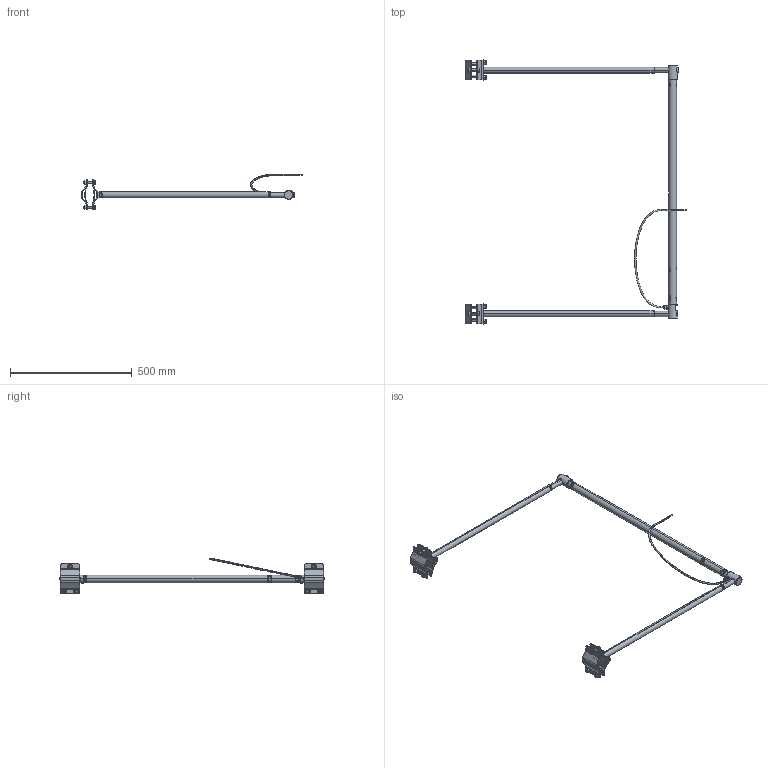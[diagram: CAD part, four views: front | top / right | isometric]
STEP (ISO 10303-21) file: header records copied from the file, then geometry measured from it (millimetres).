
FILE_DESCRIPTION (( 'STEP AP214' ), '1' );
FILE_NAME ('FCBRA.STEP', '2023-08-17T12:14:03', ( '' ), ( '' ), 'SwSTEP 2.0', 'SolidWorks 2023', '' );
FILE_SCHEMA (( 'AUTOMOTIVE_DESIGN' ));
Length unit declared in the file: millimetre
Products named in the file (35): CYBRA; BLID; BN 611 M10x110; SLEEVE; CABLE; BSHORTP; BN 33010 M10; BLIDP; Assemblage1^BLIDP; BN 610 M10x12; FCHEAD; MICHEAD; ORING 21.89x2.62; FCBASE; BN 610 M10x40; BRASH; BN 33021 M4x8; FCKIT; BN 10342 M10x25x1.5; MICHEADP; CYARM; FCSEN; FCTUBE; BRACF; BN 1593 M3x5; BRACB; GLAND; LABFC; FCBRA; CABEND; GROH 13x17x4; FUSEE; CABLE_round^CABLE; VBRA; BSHORT
Assembly tree (56 placements, depth 7):
  FCBRA
    CYBRA  x2
      BN 610 M10x12
      CYARM
      VBRA
        BRACB
        BRACF
        BN 610 M10x40  x3
        BN 33010 M10  x3
        BRASH  x2
      BN 10342 M10x25x1.5
    FCKIT
      FCSEN
        FCBASE
          BSHORTP
            BSHORT
            ORING 21.89x2.62  x2
            BN 1593 M3x5  x4
            BN 33021 M4x8
          GROH 13x17x4
          FUSEE
          LABFC
          CABLE
            CABLE_round^CABLE
            CABEND
            GLAND
          MICHEADP
            ORING 21.89x2.62
            MICHEAD
            BN 1593 M3x5  x2
        FCHEAD
          FCTUBE
          GROH 13x17x4
          FUSEE
          BLIDP
            Assemblage1^BLIDP
              BLID
            ORING 21.89x2.62  x2
            BN 33021 M4x8
      SLEEVE  x2
      BN 611 M10x110  x2
Bounding box: 906.23 x 1085 x 147.07 mm (x, y, z)
Volume: 788343.9 mm3; surface area: 677872 mm2
Topology: 69 solids, 70 shells, 2845 faces, 7040 edges, 4517 vertices
Faces by surface type: plane 1324, bspline 632, cylinder 471, cone 288, torus 118, sphere 12
Entity records: 108832 total; most frequent: CARTESIAN_POINT 47021, ORIENTED_EDGE 10432, DIRECTION 7620, EDGE_CURVE 5216, VERTEX_POINT 3429, LINE 3120, VECTOR 3120, EDGE_LOOP 2303
